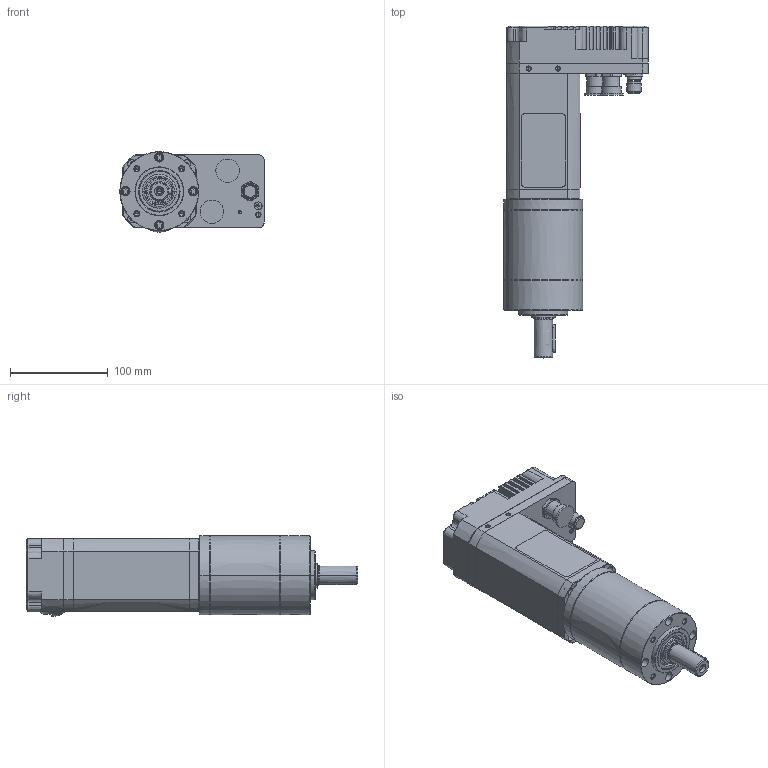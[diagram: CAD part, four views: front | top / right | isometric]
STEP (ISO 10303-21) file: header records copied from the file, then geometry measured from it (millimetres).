
FILE_DESCRIPTION((''),'2;1');
FILE_NAME('8037E_3STAGES','2018-08-28T',('ALECMA1'),('CROUZET-AUTOMATISMES'),'CREO PARAMETRIC BY PTC INC, 2017170','CREO PARAMETRIC BY PTC INC, 2017170','');
FILE_SCHEMA(('AP203_CONFIGURATION_CONTROLLED_3D_DESIGN_OF_MECHANICAL_PARTS_AND_ASSEMBLIES_MIM_LF { 1 0 10303 403 2 1 2 }'));
Products named in the file (1): 8037E_3STAGES
Bounding box: 148 x 340.3 x 82.5 mm (x, y, z)
Surface area: 162309.9 mm2 (no closed solid volume)
Topology: 0 solids, 0 shells, 685 faces, 3524 edges, 3485 vertices
Faces by surface type: bspline 661, torus 20, sphere 4
Entity records: 68817 total; most frequent: CARTESIAN_POINT 31181, DIRECTION 5606, TRIMMED_CURVE 4756, VECTOR 3979, LINE 3979, DEFINITIONAL_REPRESENTATION 3467, PCURVE 3467, COMPOSITE_CURVE_SEGMENT 3467
